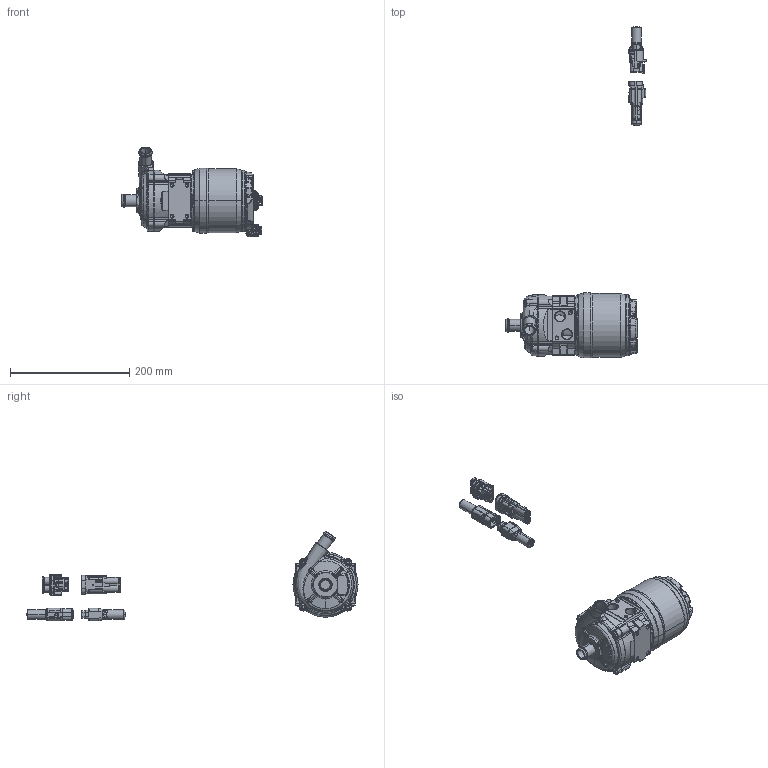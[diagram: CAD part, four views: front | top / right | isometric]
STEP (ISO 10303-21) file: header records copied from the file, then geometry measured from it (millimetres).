
FILE_DESCRIPTION (( 'STEP AP203' ), '1' );
FILE_NAME ('ENVETEQ eWOP 960 W.STEP', '2025-12-10T13:17:40', ( '' ), ( '' ), 'SwSTEP 2.0', 'SolidWorks 2016', '' );
FILE_SCHEMA (( 'CONFIG_CONTROL_DESIGN' ));
Length unit declared in the file: millimetre
Products named in the file (1): ENVETEQ eWOP 960 W
Bounding box: 235.65 x 556.1 x 150.12 mm (x, y, z)
Volume: 1616935.4 mm3; surface area: 162054.8 mm2
Topology: 33 solids, 68 shells, 5209 faces, 13304 edges, 8264 vertices
Faces by surface type: plane 1840, cylinder 1391, bspline 1266, cone 647, torus 65
Entity records: 209656 total; most frequent: CARTESIAN_POINT 90666, ORIENTED_EDGE 26356, DIRECTION 23223, EDGE_CURVE 13178, AXIS2_PLACEMENT_3D 8535, VERTEX_POINT 8264, LINE 6153, VECTOR 6153
